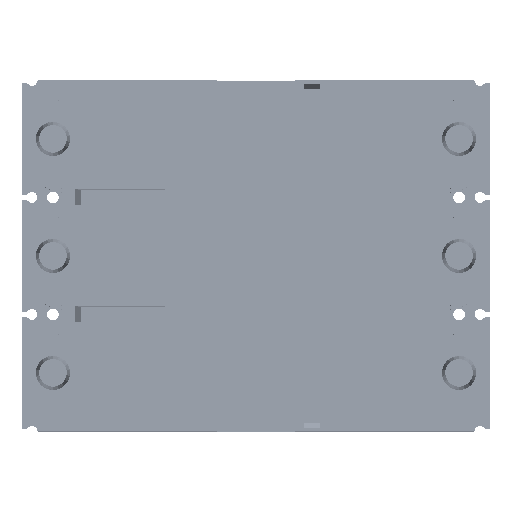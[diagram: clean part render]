
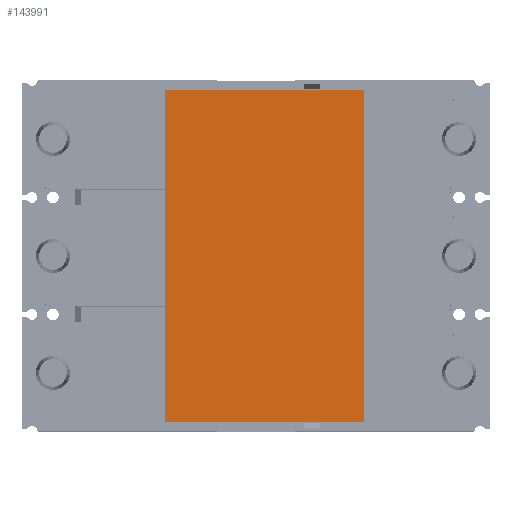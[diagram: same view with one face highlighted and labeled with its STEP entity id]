
A CAD part, top view. The second image highlights one B-rep face of the part: STEP entity #143991.
In plain terms, the highlighted planar face has unit normal (0, 0, 1) as drawn and (0, -1, 0) by its records, which use the part's own axes.
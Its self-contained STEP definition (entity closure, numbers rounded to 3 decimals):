
#143876=DIRECTION('',(0.,0.,-1.));
#143877=VECTOR('',#143876,59.5);
#143878=CARTESIAN_POINT('',(-99.5,0.,59.5));
#143879=LINE('',#143878,#143877);
#143884=DIRECTION('',(0.,0.,-1.));
#143885=VECTOR('',#143884,59.5);
#143886=CARTESIAN_POINT('',(-99.5,0.,0.));
#143887=LINE('',#143886,#143885);
#143892=DIRECTION('',(1.,0.,0.));
#143893=VECTOR('',#143892,199.);
#143894=CARTESIAN_POINT('',(-99.5,0.,-59.5));
#143895=LINE('',#143894,#143893);
#143900=DIRECTION('',(0.,0.,1.));
#143901=VECTOR('',#143900,59.5);
#143902=CARTESIAN_POINT('',(99.5,0.,-59.5));
#143903=LINE('',#143902,#143901);
#143908=DIRECTION('',(0.,0.,1.));
#143909=VECTOR('',#143908,59.5);
#143910=CARTESIAN_POINT('',(99.5,0.,0.));
#143911=LINE('',#143910,#143909);
#143916=DIRECTION('',(-1.,0.,0.));
#143917=VECTOR('',#143916,199.);
#143918=CARTESIAN_POINT('',(99.5,0.,59.5));
#143919=LINE('',#143918,#143917);
#143948=CARTESIAN_POINT('',(-99.5,0.,59.5));
#143949=CARTESIAN_POINT('',(-99.5,0.,0.));
#143950=VERTEX_POINT('',#143948);
#143951=VERTEX_POINT('',#143949);
#143952=CARTESIAN_POINT('',(99.5,0.,59.5));
#143953=VERTEX_POINT('',#143952);
#143954=CARTESIAN_POINT('',(99.5,0.,0.));
#143955=VERTEX_POINT('',#143954);
#143956=CARTESIAN_POINT('',(99.5,0.,-59.5));
#143957=VERTEX_POINT('',#143956);
#143958=CARTESIAN_POINT('',(-99.5,0.,-59.5));
#143959=VERTEX_POINT('',#143958);
#143972=CARTESIAN_POINT('',(0.,0.,0.));
#143973=DIRECTION('',(0.,1.,0.));
#143974=DIRECTION('',(1.,0.,0.));
#143975=AXIS2_PLACEMENT_3D('',#143972,#143973,#143974);
#143976=PLANE('',#143975);
#143978=ORIENTED_EDGE('',*,*,#143977,.F.);
#143980=ORIENTED_EDGE('',*,*,#143979,.F.);
#143982=ORIENTED_EDGE('',*,*,#143981,.F.);
#143984=ORIENTED_EDGE('',*,*,#143983,.F.);
#143986=ORIENTED_EDGE('',*,*,#143985,.F.);
#143988=ORIENTED_EDGE('',*,*,#143987,.F.);
#143989=EDGE_LOOP('',(#143978,#143980,#143982,#143984,#143986,#143988));
#143990=FACE_OUTER_BOUND('',#143989,.F.);
#143991=ADVANCED_FACE('',(#143990),#143976,.F.);
#143977=EDGE_CURVE('',#143950,#143951,#143879,.T.);
#143979=EDGE_CURVE('',#143953,#143950,#143919,.T.);
#143981=EDGE_CURVE('',#143955,#143953,#143911,.T.);
#143983=EDGE_CURVE('',#143957,#143955,#143903,.T.);
#143985=EDGE_CURVE('',#143959,#143957,#143895,.T.);
#143987=EDGE_CURVE('',#143951,#143959,#143887,.T.);
